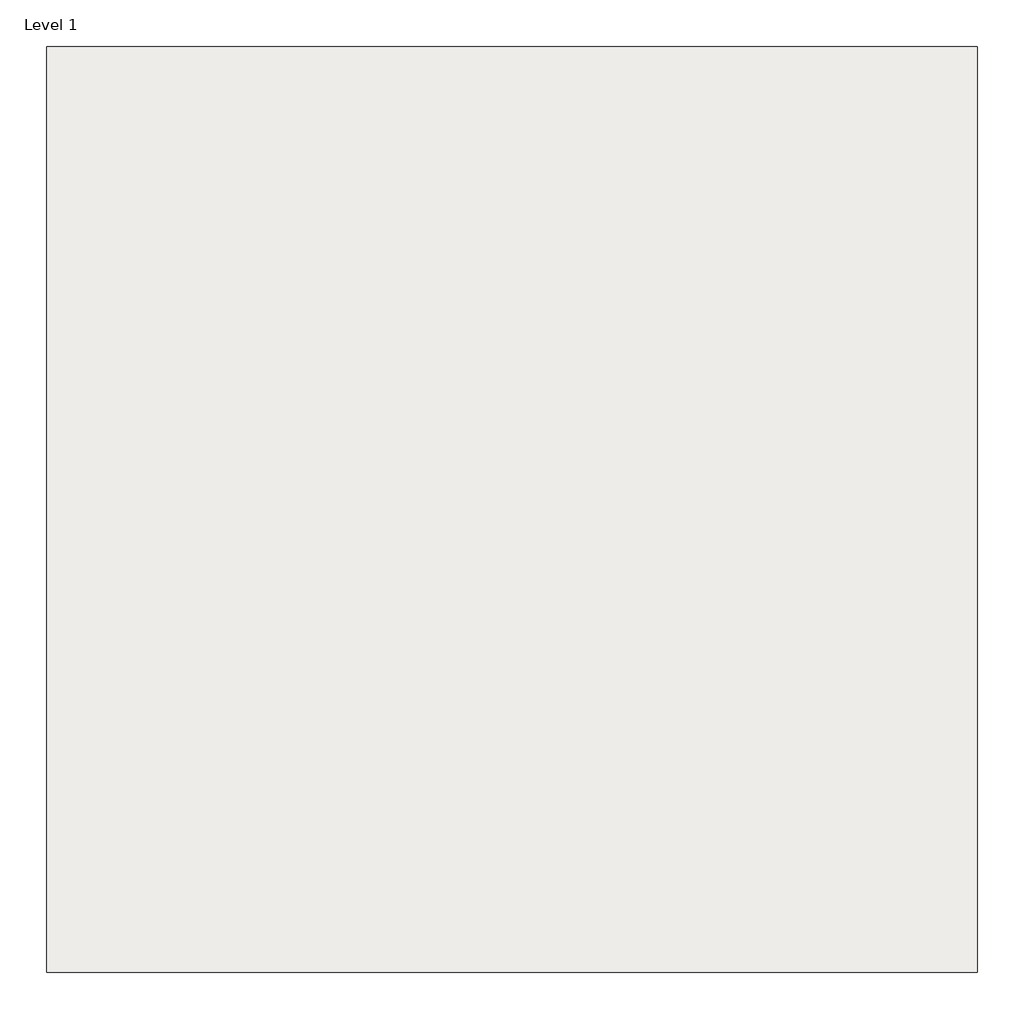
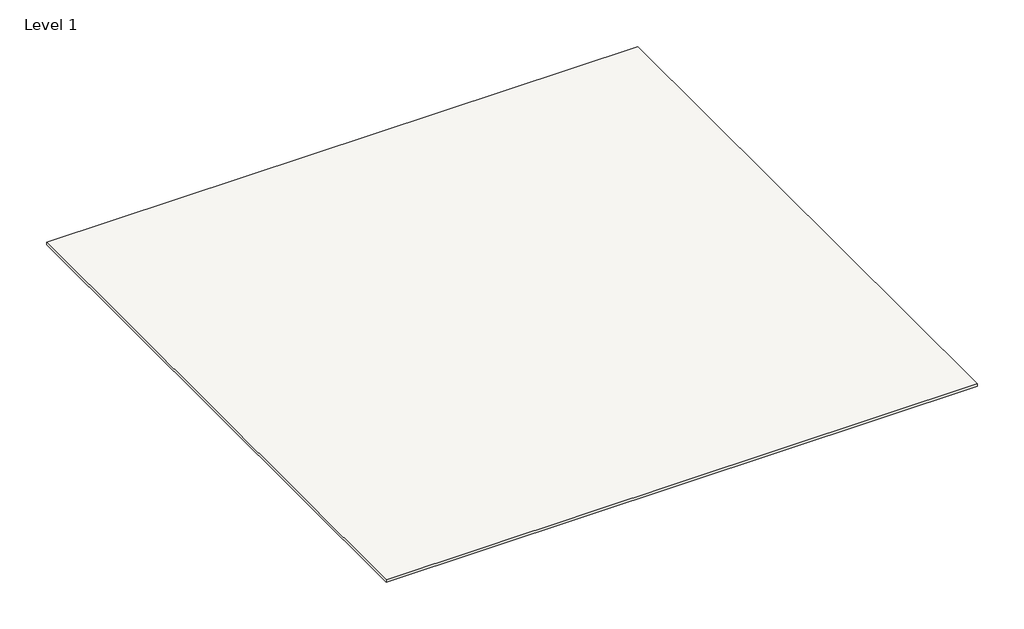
# One storey: 1 covering.
"""IFC4 building model written with IfcOpenShell, lengths in millimetres."""

from ifc_helpers import new_model, si_unit, origin, origin_with_axes, place, context, project, spatial, polyline, outline, extrude, element, save

model = new_model("IFC4")

# Units and contexts
model_context = context("Model", 3, world=origin())
ifc_project = project(units=[si_unit("LENGTHUNIT", "METRE", prefix="MILLI")], contexts=[model_context])

# Site, building, storey
site = spatial("IfcSite", under=ifc_project)
building = spatial("IfcBuilding", under=site)
storey = spatial("IfcBuildingStorey", under=building, Name="Level 1", Elevation=0.0)

# Covering
placement = place(None, origin())
element("IfcCovering", 1, ObjectType="Rockfon Alaska SLT 2'x5'x3/4''", at=placement, inside=storey, context=model_context, shape_type="SweptSolid", body=[
    extrude(outline(polyline([(-8901.3776569, 5089.2737695), (-8901.3776569, 288.6737695), (-13727.3776569, 288.6737695), (-13727.3776569, 5089.2737695), (-8901.3776569, 5089.2737695)])), origin_with_axes(), (0.0, 0.0, 1.0), 19.9898),
])

save(model, "model.ifc")
